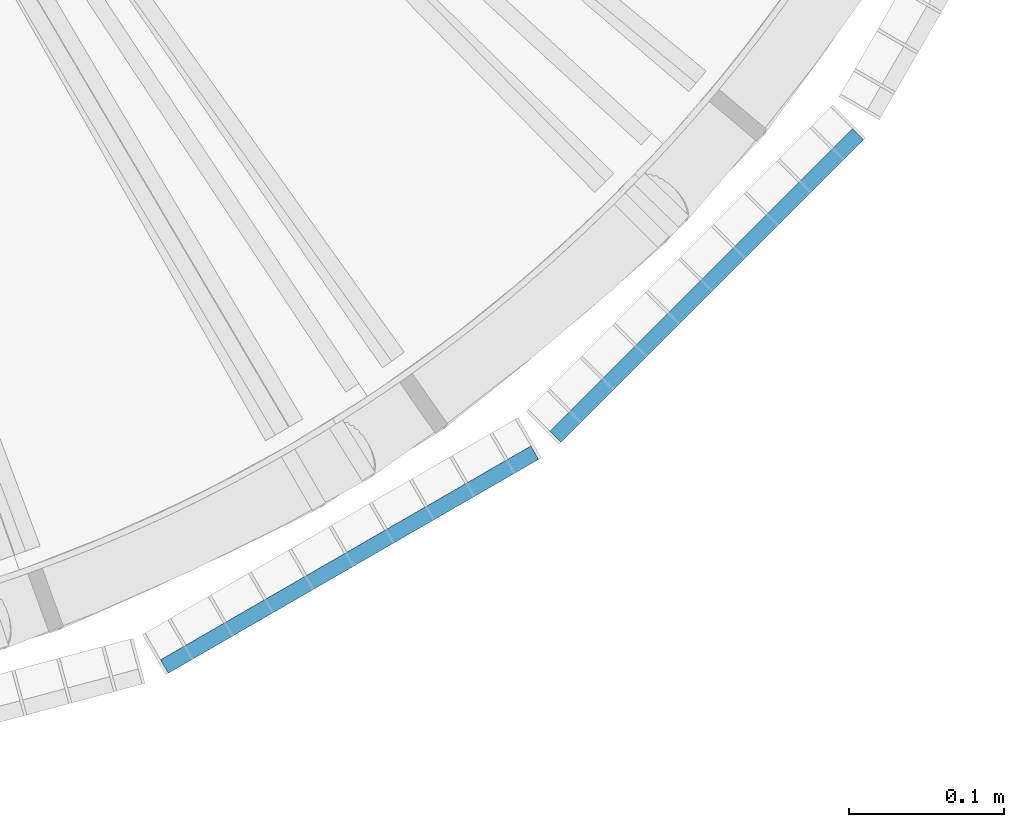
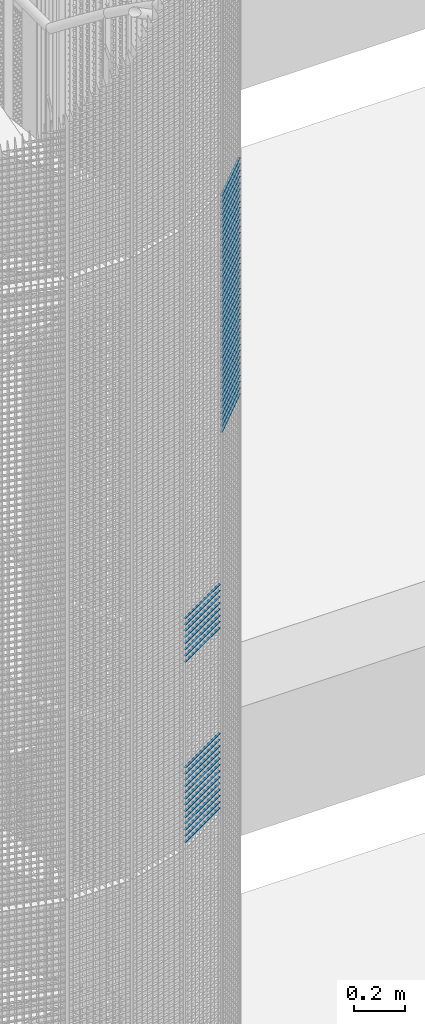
# One storey, part 386 of 1148: 60 beams, 2 elements without a shape of their own.
"""IFC2X3 building model written with IfcOpenShell, lengths in millimetres."""

from ifc_helpers import new_model, si_unit, frame, origin_with_axes, origin_2d_with_axis, place, context, subcontext, project, spatial, rectangle, extrude, material, type_object, element, aggregate, save


model = new_model("IFC2X3")

# Units and contexts
model_context = context("Model", 3, precision=1e-05, world=origin_with_axes())
body_context = subcontext(model_context, "Body", "Model", "MODEL_VIEW")
ifc_project = project(units=[si_unit("LENGTHUNIT", "METRE", prefix="MILLI"), si_unit("AREAUNIT", "SQUARE_METRE"), si_unit("VOLUMEUNIT", "CUBIC_METRE"), si_unit("MASSUNIT", "GRAM", prefix="KILO"), si_unit("TIMEUNIT", "SECOND"), si_unit("PLANEANGLEUNIT", "RADIAN"), si_unit("SOLIDANGLEUNIT", "STERADIAN"), si_unit("THERMODYNAMICTEMPERATUREUNIT", "DEGREE_CELSIUS"), si_unit("LUMINOUSINTENSITYUNIT", "LUMEN")], contexts=[model_context])

# Site, building, storey
site_placement = place(None, origin_with_axes())
site = spatial("IfcSite", under=ifc_project, at=site_placement, Name="Undefined", CompositionType="ELEMENT")
building_placement = place(site_placement, origin_with_axes())
building = spatial("IfcBuilding", under=site, at=building_placement, Name="Undefined", CompositionType="ELEMENT")
storey_placement = place(building_placement, origin_with_axes())
storey = spatial("IfcBuildingStorey", under=building, at=storey_placement, Name="Undefined", CompositionType="ELEMENT", Elevation=0.0)

# Assembly, beams
assembly_1_placement = place(storey_placement, origin_with_axes())
assembly_1 = element("IfcElementAssembly", 1, at=assembly_1_placement, inside=storey, Name="BORDURE", AssemblyPlace="NOTDEFINED", PredefinedType="NOTDEFINED")
ifc_material = material(Name="STEEL/S235JR")
beam_type = type_object("IfcBeamType", Name="PL2*10", PredefinedType="NOTDEFINED")
beam_1_placement = place(assembly_1_placement, frame((22276.2480445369, -895.303964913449, 12900.0), z_axis=(0.499999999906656, -0.866025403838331, 0.0), x_axis=(-0.866025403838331, -0.499999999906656, 0.0)))
beam_1 = element("IfcBeam", 2, at=beam_1_placement, type_object=beam_type, material=ifc_material, Name="ENTRETOISE", context=body_context, shape_type="SweptSolid", body=[
    extrude(rectangle(XDim=2.0, YDim=10.0, at=origin_2d_with_axis()), frame((275.999999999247, 9.09494701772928e-13, 1.53210777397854e-14), z_axis=(-1.0, 0.0, 0.0), x_axis=(0.0, -1.0, 0.0)), (0.0, 0.0, 1.0), 276.0),
])
beam_2_placement = place(assembly_1_placement, frame((22276.2480445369, -895.30396491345, 12390.0), z_axis=(0.499999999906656, -0.866025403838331, 0.0), x_axis=(-0.866025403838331, -0.499999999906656, 0.0)))
beam_2 = element("IfcBeam", 3, at=beam_2_placement, type_object=beam_type, material=ifc_material, Name="ENTRETOISE", context=body_context, shape_type="SweptSolid", body=[
    extrude(rectangle(XDim=2.0, YDim=10.0, at=origin_2d_with_axis()), frame((275.999999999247, 9.09494701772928e-13, 1.53210777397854e-14), z_axis=(-1.0, 0.0, 0.0), x_axis=(0.0, -1.0, 0.0)), (0.0, 0.0, 1.0), 276.0),
])
beam_3_placement = place(assembly_1_placement, frame((22276.2480445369, -895.303964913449, 12930.0), z_axis=(0.499999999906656, -0.866025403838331, 0.0), x_axis=(-0.866025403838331, -0.499999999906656, 0.0)))
beam_3 = element("IfcBeam", 4, at=beam_3_placement, type_object=beam_type, material=ifc_material, Name="ENTRETOISE", context=body_context, shape_type="SweptSolid", body=[
    extrude(rectangle(XDim=2.0, YDim=10.0, at=origin_2d_with_axis()), frame((275.999999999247, 9.09494701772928e-13, 1.53210777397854e-14), z_axis=(-1.0, 0.0, 0.0), x_axis=(0.0, -1.0, 0.0)), (0.0, 0.0, 1.0), 276.0),
])
beam_4_placement = place(assembly_1_placement, frame((22276.2480445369, -895.30396491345, 12360.0), z_axis=(0.499999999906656, -0.866025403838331, 0.0), x_axis=(-0.866025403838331, -0.499999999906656, 0.0)))
beam_4 = element("IfcBeam", 5, at=beam_4_placement, type_object=beam_type, material=ifc_material, Name="ENTRETOISE", context=body_context, shape_type="SweptSolid", body=[
    extrude(rectangle(XDim=2.0, YDim=10.0, at=origin_2d_with_axis()), frame((275.999999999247, 9.09494701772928e-13, 1.53210777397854e-14), z_axis=(-1.0, 0.0, 0.0), x_axis=(0.0, -1.0, 0.0)), (0.0, 0.0, 1.0), 276.0),
])
beam_5_placement = place(assembly_1_placement, frame((22276.2480445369, -895.30396491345, 12330.0), z_axis=(0.499999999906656, -0.866025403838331, 0.0), x_axis=(-0.866025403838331, -0.499999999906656, 0.0)))
beam_5 = element("IfcBeam", 6, at=beam_5_placement, type_object=beam_type, material=ifc_material, Name="ENTRETOISE", context=body_context, shape_type="SweptSolid", body=[
    extrude(rectangle(XDim=2.0, YDim=10.0, at=origin_2d_with_axis()), frame((275.999999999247, 9.09494701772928e-13, 1.53210777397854e-14), z_axis=(-1.0, 0.0, 0.0), x_axis=(0.0, -1.0, 0.0)), (0.0, 0.0, 1.0), 276.0),
])
beam_6_placement = place(assembly_1_placement, frame((22276.2480445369, -895.303964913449, 12960.0), z_axis=(0.499999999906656, -0.866025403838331, 0.0), x_axis=(-0.866025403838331, -0.499999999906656, 0.0)))
beam_6 = element("IfcBeam", 7, at=beam_6_placement, type_object=beam_type, material=ifc_material, Name="ENTRETOISE", context=body_context, shape_type="SweptSolid", body=[
    extrude(rectangle(XDim=2.0, YDim=10.0, at=origin_2d_with_axis()), frame((275.999999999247, 9.09494701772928e-13, 1.53210777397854e-14), z_axis=(-1.0, 0.0, 0.0), x_axis=(0.0, -1.0, 0.0)), (0.0, 0.0, 1.0), 276.0),
])
beam_7_placement = place(assembly_1_placement, frame((22276.2480445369, -895.30396491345, 12300.0), z_axis=(0.499999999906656, -0.866025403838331, 0.0), x_axis=(-0.866025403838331, -0.499999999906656, 0.0)))
beam_7 = element("IfcBeam", 8, at=beam_7_placement, type_object=beam_type, material=ifc_material, Name="ENTRETOISE", context=body_context, shape_type="SweptSolid", body=[
    extrude(rectangle(XDim=2.0, YDim=10.0, at=origin_2d_with_axis()), frame((275.999999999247, 9.09494701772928e-13, 1.53210777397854e-14), z_axis=(-1.0, 0.0, 0.0), x_axis=(0.0, -1.0, 0.0)), (0.0, 0.0, 1.0), 276.0),
])
beam_8_placement = place(assembly_1_placement, frame((22276.2480445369, -895.30396491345, 12270.0), z_axis=(0.499999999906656, -0.866025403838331, 0.0), x_axis=(-0.866025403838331, -0.499999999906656, 0.0)))
beam_8 = element("IfcBeam", 9, at=beam_8_placement, type_object=beam_type, material=ifc_material, Name="ENTRETOISE", context=body_context, shape_type="SweptSolid", body=[
    extrude(rectangle(XDim=2.0, YDim=10.0, at=origin_2d_with_axis()), frame((275.999999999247, 9.09494701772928e-13, 1.53210777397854e-14), z_axis=(-1.0, 0.0, 0.0), x_axis=(0.0, -1.0, 0.0)), (0.0, 0.0, 1.0), 276.0),
])
beam_9_placement = place(assembly_1_placement, frame((22276.2480445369, -895.303964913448, 12990.0), z_axis=(0.499999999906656, -0.866025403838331, 0.0), x_axis=(-0.866025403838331, -0.499999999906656, 0.0)))
beam_9 = element("IfcBeam", 10, at=beam_9_placement, type_object=beam_type, material=ifc_material, Name="ENTRETOISE", context=body_context, shape_type="SweptSolid", body=[
    extrude(rectangle(XDim=2.0, YDim=10.0, at=origin_2d_with_axis()), frame((275.999999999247, 9.09494701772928e-13, 1.53210777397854e-14), z_axis=(-1.0, 0.0, 0.0), x_axis=(0.0, -1.0, 0.0)), (0.0, 0.0, 1.0), 276.0),
])
beam_10_placement = place(assembly_1_placement, frame((22276.2480445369, -895.30396491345, 12240.0), z_axis=(0.499999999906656, -0.866025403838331, 0.0), x_axis=(-0.866025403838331, -0.499999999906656, 0.0)))
beam_10 = element("IfcBeam", 11, at=beam_10_placement, type_object=beam_type, material=ifc_material, Name="ENTRETOISE", context=body_context, shape_type="SweptSolid", body=[
    extrude(rectangle(XDim=2.0, YDim=10.0, at=origin_2d_with_axis()), frame((275.999999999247, 9.09494701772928e-13, 1.53210777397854e-14), z_axis=(-1.0, 0.0, 0.0), x_axis=(0.0, -1.0, 0.0)), (0.0, 0.0, 1.0), 276.0),
])
beam_11_placement = place(assembly_1_placement, frame((22276.2480445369, -895.303964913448, 13020.0), z_axis=(0.499999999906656, -0.866025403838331, 0.0), x_axis=(-0.866025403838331, -0.499999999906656, 0.0)))
beam_11 = element("IfcBeam", 12, at=beam_11_placement, type_object=beam_type, material=ifc_material, Name="ENTRETOISE", context=body_context, shape_type="SweptSolid", body=[
    extrude(rectangle(XDim=2.0, YDim=10.0, at=origin_2d_with_axis()), frame((275.999999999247, 9.09494701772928e-13, 1.53210777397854e-14), z_axis=(-1.0, 0.0, 0.0), x_axis=(0.0, -1.0, 0.0)), (0.0, 0.0, 1.0), 276.0),
])
beam_12_placement = place(assembly_1_placement, frame((22276.2480445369, -895.30396491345, 12210.0), z_axis=(0.499999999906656, -0.866025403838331, 0.0), x_axis=(-0.866025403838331, -0.499999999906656, 0.0)))
beam_12 = element("IfcBeam", 13, at=beam_12_placement, type_object=beam_type, material=ifc_material, Name="ENTRETOISE", context=body_context, shape_type="SweptSolid", body=[
    extrude(rectangle(XDim=2.0, YDim=10.0, at=origin_2d_with_axis()), frame((275.999999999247, 9.09494701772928e-13, 1.53210777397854e-14), z_axis=(-1.0, 0.0, 0.0), x_axis=(0.0, -1.0, 0.0)), (0.0, 0.0, 1.0), 276.0),
])
beam_13_placement = place(assembly_1_placement, frame((22276.2480445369, -895.30396491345, 12180.0), z_axis=(0.499999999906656, -0.866025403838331, 0.0), x_axis=(-0.866025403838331, -0.499999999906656, 0.0)))
beam_13 = element("IfcBeam", 14, at=beam_13_placement, type_object=beam_type, material=ifc_material, Name="ENTRETOISE", context=body_context, shape_type="SweptSolid", body=[
    extrude(rectangle(XDim=2.0, YDim=10.0, at=origin_2d_with_axis()), frame((275.999999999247, 9.09494701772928e-13, 1.53210777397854e-14), z_axis=(-1.0, 0.0, 0.0), x_axis=(0.0, -1.0, 0.0)), (0.0, 0.0, 1.0), 276.0),
])
beam_14_placement = place(assembly_1_placement, frame((22276.2480445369, -895.303964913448, 13050.0), z_axis=(0.499999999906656, -0.866025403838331, 0.0), x_axis=(-0.866025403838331, -0.499999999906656, 0.0)))
beam_14 = element("IfcBeam", 15, at=beam_14_placement, type_object=beam_type, material=ifc_material, Name="ENTRETOISE", context=body_context, shape_type="SweptSolid", body=[
    extrude(rectangle(XDim=2.0, YDim=10.0, at=origin_2d_with_axis()), frame((275.999999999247, 9.09494701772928e-13, 1.53210777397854e-14), z_axis=(-1.0, 0.0, 0.0), x_axis=(0.0, -1.0, 0.0)), (0.0, 0.0, 1.0), 276.0),
])
beam_15_placement = place(assembly_1_placement, frame((22276.2480445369, -895.30396491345, 12150.0), z_axis=(0.499999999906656, -0.866025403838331, 0.0), x_axis=(-0.866025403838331, -0.499999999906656, 0.0)))
beam_15 = element("IfcBeam", 16, at=beam_15_placement, type_object=beam_type, material=ifc_material, Name="ENTRETOISE", context=body_context, shape_type="SweptSolid", body=[
    extrude(rectangle(XDim=2.0, YDim=10.0, at=origin_2d_with_axis()), frame((275.999999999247, 9.09494701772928e-13, 1.53210777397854e-14), z_axis=(-1.0, 0.0, 0.0), x_axis=(0.0, -1.0, 0.0)), (0.0, 0.0, 1.0), 276.0),
])
beam_16_placement = place(assembly_1_placement, frame((22276.2480445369, -895.30396491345, 12120.0), z_axis=(0.499999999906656, -0.866025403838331, 0.0), x_axis=(-0.866025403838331, -0.499999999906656, 0.0)))
beam_16 = element("IfcBeam", 17, at=beam_16_placement, type_object=beam_type, material=ifc_material, Name="ENTRETOISE", context=body_context, shape_type="SweptSolid", body=[
    extrude(rectangle(XDim=2.0, YDim=10.0, at=origin_2d_with_axis()), frame((275.999999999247, 9.09494701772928e-13, 1.53210777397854e-14), z_axis=(-1.0, 0.0, 0.0), x_axis=(0.0, -1.0, 0.0)), (0.0, 0.0, 1.0), 276.0),
])
beam_17_placement = place(assembly_1_placement, frame((22276.2480445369, -895.303964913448, 13080.0), z_axis=(0.499999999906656, -0.866025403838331, 0.0), x_axis=(-0.866025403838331, -0.499999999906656, 0.0)))
beam_17 = element("IfcBeam", 18, at=beam_17_placement, type_object=beam_type, material=ifc_material, Name="ENTRETOISE", context=body_context, shape_type="SweptSolid", body=[
    extrude(rectangle(XDim=2.0, YDim=10.0, at=origin_2d_with_axis()), frame((275.999999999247, 9.09494701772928e-13, 1.53210777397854e-14), z_axis=(-1.0, 0.0, 0.0), x_axis=(0.0, -1.0, 0.0)), (0.0, 0.0, 1.0), 276.0),
])
beam_18_placement = place(assembly_1_placement, frame((22276.2480445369, -895.30396491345, 12090.0), z_axis=(0.499999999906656, -0.866025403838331, 0.0), x_axis=(-0.866025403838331, -0.499999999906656, 0.0)))
beam_18 = element("IfcBeam", 19, at=beam_18_placement, type_object=beam_type, material=ifc_material, Name="ENTRETOISE", context=body_context, shape_type="SweptSolid", body=[
    extrude(rectangle(XDim=2.0, YDim=10.0, at=origin_2d_with_axis()), frame((275.999999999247, 9.09494701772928e-13, 1.53210777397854e-14), z_axis=(-1.0, 0.0, 0.0), x_axis=(0.0, -1.0, 0.0)), (0.0, 0.0, 1.0), 276.0),
])
beam_19_placement = place(assembly_1_placement, frame((22276.2480445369, -895.30396491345, 12060.0), z_axis=(0.499999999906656, -0.866025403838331, 0.0), x_axis=(-0.866025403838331, -0.499999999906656, 0.0)))
beam_19 = element("IfcBeam", 20, at=beam_19_placement, type_object=beam_type, material=ifc_material, Name="ENTRETOISE", context=body_context, shape_type="SweptSolid", body=[
    extrude(rectangle(XDim=2.0, YDim=10.0, at=origin_2d_with_axis()), frame((275.999999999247, 9.09494701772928e-13, 1.53210777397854e-14), z_axis=(-1.0, 0.0, 0.0), x_axis=(0.0, -1.0, 0.0)), (0.0, 0.0, 1.0), 276.0),
])
beam_20_placement = place(assembly_1_placement, frame((22276.2480445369, -895.303964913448, 13110.0), z_axis=(0.499999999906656, -0.866025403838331, 0.0), x_axis=(-0.866025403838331, -0.499999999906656, 0.0)))
beam_20 = element("IfcBeam", 21, at=beam_20_placement, type_object=beam_type, material=ifc_material, Name="ENTRETOISE", context=body_context, shape_type="SweptSolid", body=[
    extrude(rectangle(XDim=2.0, YDim=10.0, at=origin_2d_with_axis()), frame((275.999999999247, 9.09494701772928e-13, 1.53210777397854e-14), z_axis=(-1.0, 0.0, 0.0), x_axis=(0.0, -1.0, 0.0)), (0.0, 0.0, 1.0), 276.0),
])
beam_21_placement = place(assembly_1_placement, frame((22276.2480445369, -895.30396491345, 12030.0), z_axis=(0.499999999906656, -0.866025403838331, 0.0), x_axis=(-0.866025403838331, -0.499999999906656, 0.0)))
beam_21 = element("IfcBeam", 22, at=beam_21_placement, type_object=beam_type, material=ifc_material, Name="ENTRETOISE", context=body_context, shape_type="SweptSolid", body=[
    extrude(rectangle(XDim=2.0, YDim=10.0, at=origin_2d_with_axis()), frame((275.999999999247, 9.09494701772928e-13, 1.53210777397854e-14), z_axis=(-1.0, 0.0, 0.0), x_axis=(0.0, -1.0, 0.0)), (0.0, 0.0, 1.0), 276.0),
])
aggregate(assembly_1, [beam_1, beam_2, beam_3, beam_4, beam_5, beam_6, beam_7, beam_8, beam_9, beam_10, beam_11, beam_12, beam_13, beam_14, beam_15, beam_16, beam_17, beam_18, beam_19, beam_20, beam_21])

assembly_2_placement = place(storey_placement, origin_with_axes())
assembly_2 = element("IfcElementAssembly", 23, at=assembly_2_placement, inside=storey, Name="BORDURE", AssemblyPlace="NOTDEFINED", PredefinedType="NOTDEFINED")
beam_22_placement = place(assembly_2_placement, frame((22484.9271684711, -689.771348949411, 14970.0), z_axis=(0.707106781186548, -0.707106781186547, 0.0), x_axis=(-0.70710678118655, -0.707106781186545, 0.0)))
beam_22 = element("IfcBeam", 24, at=beam_22_placement, type_object=beam_type, material=ifc_material, Name="ENTRETOISE", context=body_context, shape_type="SweptSolid", body=[
    extrude(rectangle(XDim=2.0, YDim=10.0, at=origin_2d_with_axis()), frame((275.999999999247, 9.09494701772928e-13, 1.53210777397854e-14), z_axis=(-1.0, 0.0, 0.0), x_axis=(0.0, -1.0, 0.0)), (0.0, 0.0, 1.0), 276.0),
])
beam_23_placement = place(assembly_2_placement, frame((22484.9271684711, -689.771348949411, 14940.0), z_axis=(0.707106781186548, -0.707106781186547, 0.0), x_axis=(-0.70710678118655, -0.707106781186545, 0.0)))
beam_23 = element("IfcBeam", 25, at=beam_23_placement, type_object=beam_type, material=ifc_material, Name="ENTRETOISE", context=body_context, shape_type="SweptSolid", body=[
    extrude(rectangle(XDim=2.0, YDim=10.0, at=origin_2d_with_axis()), frame((275.999999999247, 9.09494701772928e-13, 1.53210777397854e-14), z_axis=(-1.0, 0.0, 0.0), x_axis=(0.0, -1.0, 0.0)), (0.0, 0.0, 1.0), 276.0),
])
beam_24_placement = place(assembly_2_placement, frame((22484.9271684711, -689.771348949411, 14910.0), z_axis=(0.707106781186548, -0.707106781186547, 0.0), x_axis=(-0.70710678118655, -0.707106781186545, 0.0)))
beam_24 = element("IfcBeam", 26, at=beam_24_placement, type_object=beam_type, material=ifc_material, Name="ENTRETOISE", context=body_context, shape_type="SweptSolid", body=[
    extrude(rectangle(XDim=2.0, YDim=10.0, at=origin_2d_with_axis()), frame((275.999999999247, 9.09494701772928e-13, 1.53210777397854e-14), z_axis=(-1.0, 0.0, 0.0), x_axis=(0.0, -1.0, 0.0)), (0.0, 0.0, 1.0), 276.0),
])
beam_25_placement = place(assembly_2_placement, frame((22484.9271684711, -689.771348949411, 14880.0), z_axis=(0.707106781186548, -0.707106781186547, 0.0), x_axis=(-0.70710678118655, -0.707106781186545, 0.0)))
beam_25 = element("IfcBeam", 27, at=beam_25_placement, type_object=beam_type, material=ifc_material, Name="ENTRETOISE", context=body_context, shape_type="SweptSolid", body=[
    extrude(rectangle(XDim=2.0, YDim=10.0, at=origin_2d_with_axis()), frame((275.999999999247, 9.09494701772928e-13, 1.53210777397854e-14), z_axis=(-1.0, 0.0, 0.0), x_axis=(0.0, -1.0, 0.0)), (0.0, 0.0, 1.0), 276.0),
])
beam_26_placement = place(assembly_2_placement, frame((22484.9271684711, -689.771348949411, 14850.0), z_axis=(0.707106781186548, -0.707106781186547, 0.0), x_axis=(-0.70710678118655, -0.707106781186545, 0.0)))
beam_26 = element("IfcBeam", 28, at=beam_26_placement, type_object=beam_type, material=ifc_material, Name="ENTRETOISE", context=body_context, shape_type="SweptSolid", body=[
    extrude(rectangle(XDim=2.0, YDim=10.0, at=origin_2d_with_axis()), frame((275.999999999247, 9.09494701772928e-13, 1.53210777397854e-14), z_axis=(-1.0, 0.0, 0.0), x_axis=(0.0, -1.0, 0.0)), (0.0, 0.0, 1.0), 276.0),
])
beam_27_placement = place(assembly_2_placement, frame((22484.9271684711, -689.771348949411, 14820.0), z_axis=(0.707106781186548, -0.707106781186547, 0.0), x_axis=(-0.70710678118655, -0.707106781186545, 0.0)))
beam_27 = element("IfcBeam", 29, at=beam_27_placement, type_object=beam_type, material=ifc_material, Name="ENTRETOISE", context=body_context, shape_type="SweptSolid", body=[
    extrude(rectangle(XDim=2.0, YDim=10.0, at=origin_2d_with_axis()), frame((275.999999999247, 9.09494701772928e-13, 1.53210777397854e-14), z_axis=(-1.0, 0.0, 0.0), x_axis=(0.0, -1.0, 0.0)), (0.0, 0.0, 1.0), 276.0),
])
beam_28_placement = place(assembly_2_placement, frame((22484.9271684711, -689.771348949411, 14790.0), z_axis=(0.707106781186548, -0.707106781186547, 0.0), x_axis=(-0.70710678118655, -0.707106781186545, 0.0)))
beam_28 = element("IfcBeam", 30, at=beam_28_placement, type_object=beam_type, material=ifc_material, Name="ENTRETOISE", context=body_context, shape_type="SweptSolid", body=[
    extrude(rectangle(XDim=2.0, YDim=10.0, at=origin_2d_with_axis()), frame((275.999999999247, 9.09494701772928e-13, 1.53210777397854e-14), z_axis=(-1.0, 0.0, 0.0), x_axis=(0.0, -1.0, 0.0)), (0.0, 0.0, 1.0), 276.0),
])
beam_29_placement = place(assembly_2_placement, frame((22484.9271684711, -689.771348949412, 14760.0), z_axis=(0.707106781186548, -0.707106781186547, 0.0), x_axis=(-0.70710678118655, -0.707106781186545, 0.0)))
beam_29 = element("IfcBeam", 31, at=beam_29_placement, type_object=beam_type, material=ifc_material, Name="ENTRETOISE", context=body_context, shape_type="SweptSolid", body=[
    extrude(rectangle(XDim=2.0, YDim=10.0, at=origin_2d_with_axis()), frame((275.999999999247, 9.09494701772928e-13, 1.53210777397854e-14), z_axis=(-1.0, 0.0, 0.0), x_axis=(0.0, -1.0, 0.0)), (0.0, 0.0, 1.0), 276.0),
])
beam_30_placement = place(assembly_2_placement, frame((22484.9271684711, -689.771348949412, 14730.0), z_axis=(0.707106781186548, -0.707106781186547, 0.0), x_axis=(-0.70710678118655, -0.707106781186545, 0.0)))
beam_30 = element("IfcBeam", 32, at=beam_30_placement, type_object=beam_type, material=ifc_material, Name="ENTRETOISE", context=body_context, shape_type="SweptSolid", body=[
    extrude(rectangle(XDim=2.0, YDim=10.0, at=origin_2d_with_axis()), frame((275.999999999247, 9.09494701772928e-13, 1.53210777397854e-14), z_axis=(-1.0, 0.0, 0.0), x_axis=(0.0, -1.0, 0.0)), (0.0, 0.0, 1.0), 276.0),
])
beam_31_placement = place(assembly_2_placement, frame((22484.9271684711, -689.771348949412, 14700.0), z_axis=(0.707106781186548, -0.707106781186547, 0.0), x_axis=(-0.70710678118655, -0.707106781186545, 0.0)))
beam_31 = element("IfcBeam", 33, at=beam_31_placement, type_object=beam_type, material=ifc_material, Name="ENTRETOISE", context=body_context, shape_type="SweptSolid", body=[
    extrude(rectangle(XDim=2.0, YDim=10.0, at=origin_2d_with_axis()), frame((275.999999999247, 9.09494701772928e-13, 1.53210777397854e-14), z_axis=(-1.0, 0.0, 0.0), x_axis=(0.0, -1.0, 0.0)), (0.0, 0.0, 1.0), 276.0),
])
beam_32_placement = place(assembly_2_placement, frame((22484.9271684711, -689.771348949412, 14670.0), z_axis=(0.707106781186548, -0.707106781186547, 0.0), x_axis=(-0.70710678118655, -0.707106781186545, 0.0)))
beam_32 = element("IfcBeam", 34, at=beam_32_placement, type_object=beam_type, material=ifc_material, Name="ENTRETOISE", context=body_context, shape_type="SweptSolid", body=[
    extrude(rectangle(XDim=2.0, YDim=10.0, at=origin_2d_with_axis()), frame((275.999999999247, 9.09494701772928e-13, 1.53210777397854e-14), z_axis=(-1.0, 0.0, 0.0), x_axis=(0.0, -1.0, 0.0)), (0.0, 0.0, 1.0), 276.0),
])
beam_33_placement = place(assembly_2_placement, frame((22484.9271684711, -689.771348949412, 14640.0), z_axis=(0.707106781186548, -0.707106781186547, 0.0), x_axis=(-0.70710678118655, -0.707106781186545, 0.0)))
beam_33 = element("IfcBeam", 35, at=beam_33_placement, type_object=beam_type, material=ifc_material, Name="ENTRETOISE", context=body_context, shape_type="SweptSolid", body=[
    extrude(rectangle(XDim=2.0, YDim=10.0, at=origin_2d_with_axis()), frame((275.999999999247, 9.09494701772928e-13, 1.53210777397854e-14), z_axis=(-1.0, 0.0, 0.0), x_axis=(0.0, -1.0, 0.0)), (0.0, 0.0, 1.0), 276.0),
])
beam_34_placement = place(assembly_2_placement, frame((22484.9271684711, -689.771348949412, 14610.0), z_axis=(0.707106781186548, -0.707106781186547, 0.0), x_axis=(-0.70710678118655, -0.707106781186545, 0.0)))
beam_34 = element("IfcBeam", 36, at=beam_34_placement, type_object=beam_type, material=ifc_material, Name="ENTRETOISE", context=body_context, shape_type="SweptSolid", body=[
    extrude(rectangle(XDim=2.0, YDim=10.0, at=origin_2d_with_axis()), frame((275.999999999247, 9.09494701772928e-13, 1.53210777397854e-14), z_axis=(-1.0, 0.0, 0.0), x_axis=(0.0, -1.0, 0.0)), (0.0, 0.0, 1.0), 276.0),
])
beam_35_placement = place(assembly_2_placement, frame((22484.9271684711, -689.771348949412, 14580.0), z_axis=(0.707106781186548, -0.707106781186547, 0.0), x_axis=(-0.70710678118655, -0.707106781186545, 0.0)))
beam_35 = element("IfcBeam", 37, at=beam_35_placement, type_object=beam_type, material=ifc_material, Name="ENTRETOISE", context=body_context, shape_type="SweptSolid", body=[
    extrude(rectangle(XDim=2.0, YDim=10.0, at=origin_2d_with_axis()), frame((275.999999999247, 9.09494701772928e-13, 1.53210777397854e-14), z_axis=(-1.0, 0.0, 0.0), x_axis=(0.0, -1.0, 0.0)), (0.0, 0.0, 1.0), 276.0),
])
beam_36_placement = place(assembly_2_placement, frame((22484.9271684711, -689.771348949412, 14550.0), z_axis=(0.707106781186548, -0.707106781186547, 0.0), x_axis=(-0.70710678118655, -0.707106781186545, 0.0)))
beam_36 = element("IfcBeam", 38, at=beam_36_placement, type_object=beam_type, material=ifc_material, Name="ENTRETOISE", context=body_context, shape_type="SweptSolid", body=[
    extrude(rectangle(XDim=2.0, YDim=10.0, at=origin_2d_with_axis()), frame((275.999999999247, 9.09494701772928e-13, 1.53210777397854e-14), z_axis=(-1.0, 0.0, 0.0), x_axis=(0.0, -1.0, 0.0)), (0.0, 0.0, 1.0), 276.0),
])
beam_37_placement = place(assembly_2_placement, frame((22484.9271684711, -689.771348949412, 14520.0), z_axis=(0.707106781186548, -0.707106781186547, 0.0), x_axis=(-0.70710678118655, -0.707106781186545, 0.0)))
beam_37 = element("IfcBeam", 39, at=beam_37_placement, type_object=beam_type, material=ifc_material, Name="ENTRETOISE", context=body_context, shape_type="SweptSolid", body=[
    extrude(rectangle(XDim=2.0, YDim=10.0, at=origin_2d_with_axis()), frame((275.999999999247, 9.09494701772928e-13, 1.53210777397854e-14), z_axis=(-1.0, 0.0, 0.0), x_axis=(0.0, -1.0, 0.0)), (0.0, 0.0, 1.0), 276.0),
])
beam_38_placement = place(assembly_2_placement, frame((22484.9271684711, -689.771348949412, 14490.0), z_axis=(0.707106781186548, -0.707106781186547, 0.0), x_axis=(-0.70710678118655, -0.707106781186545, 0.0)))
beam_38 = element("IfcBeam", 40, at=beam_38_placement, type_object=beam_type, material=ifc_material, Name="ENTRETOISE", context=body_context, shape_type="SweptSolid", body=[
    extrude(rectangle(XDim=2.0, YDim=10.0, at=origin_2d_with_axis()), frame((275.999999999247, 9.09494701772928e-13, 1.53210777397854e-14), z_axis=(-1.0, 0.0, 0.0), x_axis=(0.0, -1.0, 0.0)), (0.0, 0.0, 1.0), 276.0),
])
beam_39_placement = place(assembly_2_placement, frame((22484.9271684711, -689.771348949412, 14460.0), z_axis=(0.707106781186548, -0.707106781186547, 0.0), x_axis=(-0.70710678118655, -0.707106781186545, 0.0)))
beam_39 = element("IfcBeam", 41, at=beam_39_placement, type_object=beam_type, material=ifc_material, Name="ENTRETOISE", context=body_context, shape_type="SweptSolid", body=[
    extrude(rectangle(XDim=2.0, YDim=10.0, at=origin_2d_with_axis()), frame((275.999999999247, 9.09494701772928e-13, 1.53210777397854e-14), z_axis=(-1.0, 0.0, 0.0), x_axis=(0.0, -1.0, 0.0)), (0.0, 0.0, 1.0), 276.0),
])
beam_40_placement = place(assembly_2_placement, frame((22484.9271684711, -689.771348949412, 14430.0), z_axis=(0.707106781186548, -0.707106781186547, 0.0), x_axis=(-0.70710678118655, -0.707106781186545, 0.0)))
beam_40 = element("IfcBeam", 42, at=beam_40_placement, type_object=beam_type, material=ifc_material, Name="ENTRETOISE", context=body_context, shape_type="SweptSolid", body=[
    extrude(rectangle(XDim=2.0, YDim=10.0, at=origin_2d_with_axis()), frame((275.999999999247, 9.09494701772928e-13, 1.53210777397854e-14), z_axis=(-1.0, 0.0, 0.0), x_axis=(0.0, -1.0, 0.0)), (0.0, 0.0, 1.0), 276.0),
])
beam_41_placement = place(assembly_2_placement, frame((22484.9271684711, -689.771348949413, 14400.0), z_axis=(0.707106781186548, -0.707106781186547, 0.0), x_axis=(-0.70710678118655, -0.707106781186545, 0.0)))
beam_41 = element("IfcBeam", 43, at=beam_41_placement, type_object=beam_type, material=ifc_material, Name="ENTRETOISE", context=body_context, shape_type="SweptSolid", body=[
    extrude(rectangle(XDim=2.0, YDim=10.0, at=origin_2d_with_axis()), frame((275.999999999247, 9.09494701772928e-13, 1.53210777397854e-14), z_axis=(-1.0, 0.0, 0.0), x_axis=(0.0, -1.0, 0.0)), (0.0, 0.0, 1.0), 276.0),
])
beam_42_placement = place(assembly_2_placement, frame((22484.9271684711, -689.771348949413, 14370.0), z_axis=(0.707106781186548, -0.707106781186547, 0.0), x_axis=(-0.70710678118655, -0.707106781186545, 0.0)))
beam_42 = element("IfcBeam", 44, at=beam_42_placement, type_object=beam_type, material=ifc_material, Name="ENTRETOISE", context=body_context, shape_type="SweptSolid", body=[
    extrude(rectangle(XDim=2.0, YDim=10.0, at=origin_2d_with_axis()), frame((275.999999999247, 9.09494701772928e-13, 1.53210777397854e-14), z_axis=(-1.0, 0.0, 0.0), x_axis=(0.0, -1.0, 0.0)), (0.0, 0.0, 1.0), 276.0),
])
beam_43_placement = place(assembly_2_placement, frame((22484.9271684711, -689.771348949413, 14340.0), z_axis=(0.707106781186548, -0.707106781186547, 0.0), x_axis=(-0.70710678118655, -0.707106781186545, 0.0)))
beam_43 = element("IfcBeam", 45, at=beam_43_placement, type_object=beam_type, material=ifc_material, Name="ENTRETOISE", context=body_context, shape_type="SweptSolid", body=[
    extrude(rectangle(XDim=2.0, YDim=10.0, at=origin_2d_with_axis()), frame((275.999999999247, 9.09494701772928e-13, 1.53210777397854e-14), z_axis=(-1.0, 0.0, 0.0), x_axis=(0.0, -1.0, 0.0)), (0.0, 0.0, 1.0), 276.0),
])
beam_44_placement = place(assembly_2_placement, frame((22484.9271684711, -689.771348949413, 14310.0), z_axis=(0.707106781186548, -0.707106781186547, 0.0), x_axis=(-0.70710678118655, -0.707106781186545, 0.0)))
beam_44 = element("IfcBeam", 46, at=beam_44_placement, type_object=beam_type, material=ifc_material, Name="ENTRETOISE", context=body_context, shape_type="SweptSolid", body=[
    extrude(rectangle(XDim=2.0, YDim=10.0, at=origin_2d_with_axis()), frame((275.999999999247, 9.09494701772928e-13, 1.53210777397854e-14), z_axis=(-1.0, 0.0, 0.0), x_axis=(0.0, -1.0, 0.0)), (0.0, 0.0, 1.0), 276.0),
])
beam_45_placement = place(assembly_2_placement, frame((22484.9271684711, -689.771348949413, 14280.0), z_axis=(0.707106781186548, -0.707106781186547, 0.0), x_axis=(-0.70710678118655, -0.707106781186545, 0.0)))
beam_45 = element("IfcBeam", 47, at=beam_45_placement, type_object=beam_type, material=ifc_material, Name="ENTRETOISE", context=body_context, shape_type="SweptSolid", body=[
    extrude(rectangle(XDim=2.0, YDim=10.0, at=origin_2d_with_axis()), frame((275.999999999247, 9.09494701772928e-13, 1.53210777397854e-14), z_axis=(-1.0, 0.0, 0.0), x_axis=(0.0, -1.0, 0.0)), (0.0, 0.0, 1.0), 276.0),
])
beam_46_placement = place(assembly_2_placement, frame((22484.9271684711, -689.771348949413, 14250.0), z_axis=(0.707106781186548, -0.707106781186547, 0.0), x_axis=(-0.70710678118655, -0.707106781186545, 0.0)))
beam_46 = element("IfcBeam", 48, at=beam_46_placement, type_object=beam_type, material=ifc_material, Name="ENTRETOISE", context=body_context, shape_type="SweptSolid", body=[
    extrude(rectangle(XDim=2.0, YDim=10.0, at=origin_2d_with_axis()), frame((275.999999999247, 9.09494701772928e-13, 1.53210777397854e-14), z_axis=(-1.0, 0.0, 0.0), x_axis=(0.0, -1.0, 0.0)), (0.0, 0.0, 1.0), 276.0),
])
beam_47_placement = place(assembly_2_placement, frame((22484.9271684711, -689.771348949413, 14220.0), z_axis=(0.707106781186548, -0.707106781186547, 0.0), x_axis=(-0.70710678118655, -0.707106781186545, 0.0)))
beam_47 = element("IfcBeam", 49, at=beam_47_placement, type_object=beam_type, material=ifc_material, Name="ENTRETOISE", context=body_context, shape_type="SweptSolid", body=[
    extrude(rectangle(XDim=2.0, YDim=10.0, at=origin_2d_with_axis()), frame((275.999999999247, 9.09494701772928e-13, 1.53210777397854e-14), z_axis=(-1.0, 0.0, 0.0), x_axis=(0.0, -1.0, 0.0)), (0.0, 0.0, 1.0), 276.0),
])
beam_48_placement = place(assembly_2_placement, frame((22484.9271684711, -689.771348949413, 14190.0), z_axis=(0.707106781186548, -0.707106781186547, 0.0), x_axis=(-0.70710678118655, -0.707106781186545, 0.0)))
beam_48 = element("IfcBeam", 50, at=beam_48_placement, type_object=beam_type, material=ifc_material, Name="ENTRETOISE", context=body_context, shape_type="SweptSolid", body=[
    extrude(rectangle(XDim=2.0, YDim=10.0, at=origin_2d_with_axis()), frame((275.999999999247, 9.09494701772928e-13, 1.53210777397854e-14), z_axis=(-1.0, 0.0, 0.0), x_axis=(0.0, -1.0, 0.0)), (0.0, 0.0, 1.0), 276.0),
])
beam_49_placement = place(assembly_2_placement, frame((22484.9271684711, -689.771348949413, 14160.0), z_axis=(0.707106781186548, -0.707106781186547, 0.0), x_axis=(-0.70710678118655, -0.707106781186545, 0.0)))
beam_49 = element("IfcBeam", 51, at=beam_49_placement, type_object=beam_type, material=ifc_material, Name="ENTRETOISE", context=body_context, shape_type="SweptSolid", body=[
    extrude(rectangle(XDim=2.0, YDim=10.0, at=origin_2d_with_axis()), frame((275.999999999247, 9.09494701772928e-13, 1.53210777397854e-14), z_axis=(-1.0, 0.0, 0.0), x_axis=(0.0, -1.0, 0.0)), (0.0, 0.0, 1.0), 276.0),
])
beam_50_placement = place(assembly_2_placement, frame((22484.9271684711, -689.771348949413, 14130.0), z_axis=(0.707106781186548, -0.707106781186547, 0.0), x_axis=(-0.70710678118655, -0.707106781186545, 0.0)))
beam_50 = element("IfcBeam", 52, at=beam_50_placement, type_object=beam_type, material=ifc_material, Name="ENTRETOISE", context=body_context, shape_type="SweptSolid", body=[
    extrude(rectangle(XDim=2.0, YDim=10.0, at=origin_2d_with_axis()), frame((275.999999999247, 9.09494701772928e-13, 1.53210777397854e-14), z_axis=(-1.0, 0.0, 0.0), x_axis=(0.0, -1.0, 0.0)), (0.0, 0.0, 1.0), 276.0),
])
beam_51_placement = place(assembly_2_placement, frame((22484.9271684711, -689.771348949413, 14100.0), z_axis=(0.707106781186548, -0.707106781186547, 0.0), x_axis=(-0.70710678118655, -0.707106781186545, 0.0)))
beam_51 = element("IfcBeam", 53, at=beam_51_placement, type_object=beam_type, material=ifc_material, Name="ENTRETOISE", context=body_context, shape_type="SweptSolid", body=[
    extrude(rectangle(XDim=2.0, YDim=10.0, at=origin_2d_with_axis()), frame((275.999999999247, 9.09494701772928e-13, 1.53210777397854e-14), z_axis=(-1.0, 0.0, 0.0), x_axis=(0.0, -1.0, 0.0)), (0.0, 0.0, 1.0), 276.0),
])
beam_52_placement = place(assembly_2_placement, frame((22484.9271684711, -689.771348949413, 14070.0), z_axis=(0.707106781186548, -0.707106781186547, 0.0), x_axis=(-0.70710678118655, -0.707106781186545, 0.0)))
beam_52 = element("IfcBeam", 54, at=beam_52_placement, type_object=beam_type, material=ifc_material, Name="ENTRETOISE", context=body_context, shape_type="SweptSolid", body=[
    extrude(rectangle(XDim=2.0, YDim=10.0, at=origin_2d_with_axis()), frame((275.999999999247, 9.09494701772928e-13, 1.53210777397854e-14), z_axis=(-1.0, 0.0, 0.0), x_axis=(0.0, -1.0, 0.0)), (0.0, 0.0, 1.0), 276.0),
])
beam_53_placement = place(assembly_2_placement, frame((22484.9271684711, -689.771348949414, 14040.0), z_axis=(0.707106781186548, -0.707106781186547, 0.0), x_axis=(-0.70710678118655, -0.707106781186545, 0.0)))
beam_53 = element("IfcBeam", 55, at=beam_53_placement, type_object=beam_type, material=ifc_material, Name="ENTRETOISE", context=body_context, shape_type="SweptSolid", body=[
    extrude(rectangle(XDim=2.0, YDim=10.0, at=origin_2d_with_axis()), frame((275.999999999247, 9.09494701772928e-13, 1.53210777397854e-14), z_axis=(-1.0, 0.0, 0.0), x_axis=(0.0, -1.0, 0.0)), (0.0, 0.0, 1.0), 276.0),
])
beam_54_placement = place(assembly_2_placement, frame((22484.9271684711, -689.771348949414, 14010.0), z_axis=(0.707106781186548, -0.707106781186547, 0.0), x_axis=(-0.70710678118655, -0.707106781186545, 0.0)))
beam_54 = element("IfcBeam", 56, at=beam_54_placement, type_object=beam_type, material=ifc_material, Name="ENTRETOISE", context=body_context, shape_type="SweptSolid", body=[
    extrude(rectangle(XDim=2.0, YDim=10.0, at=origin_2d_with_axis()), frame((275.999999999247, 9.09494701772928e-13, 1.53210777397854e-14), z_axis=(-1.0, 0.0, 0.0), x_axis=(0.0, -1.0, 0.0)), (0.0, 0.0, 1.0), 276.0),
])
beam_55_placement = place(assembly_2_placement, frame((22484.9271684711, -689.771348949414, 13980.0), z_axis=(0.707106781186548, -0.707106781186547, 0.0), x_axis=(-0.70710678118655, -0.707106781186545, 0.0)))
beam_55 = element("IfcBeam", 57, at=beam_55_placement, type_object=beam_type, material=ifc_material, Name="ENTRETOISE", context=body_context, shape_type="SweptSolid", body=[
    extrude(rectangle(XDim=2.0, YDim=10.0, at=origin_2d_with_axis()), frame((275.999999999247, 9.09494701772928e-13, 1.53210777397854e-14), z_axis=(-1.0, 0.0, 0.0), x_axis=(0.0, -1.0, 0.0)), (0.0, 0.0, 1.0), 276.0),
])
beam_56_placement = place(assembly_2_placement, frame((22484.9271684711, -689.771348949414, 13950.0), z_axis=(0.707106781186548, -0.707106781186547, 0.0), x_axis=(-0.70710678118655, -0.707106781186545, 0.0)))
beam_56 = element("IfcBeam", 58, at=beam_56_placement, type_object=beam_type, material=ifc_material, Name="ENTRETOISE", context=body_context, shape_type="SweptSolid", body=[
    extrude(rectangle(XDim=2.0, YDim=10.0, at=origin_2d_with_axis()), frame((275.999999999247, 9.09494701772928e-13, 1.53210777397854e-14), z_axis=(-1.0, 0.0, 0.0), x_axis=(0.0, -1.0, 0.0)), (0.0, 0.0, 1.0), 276.0),
])
beam_57_placement = place(assembly_2_placement, frame((22484.9271684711, -689.771348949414, 13920.0), z_axis=(0.707106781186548, -0.707106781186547, 0.0), x_axis=(-0.70710678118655, -0.707106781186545, 0.0)))
beam_57 = element("IfcBeam", 59, at=beam_57_placement, type_object=beam_type, material=ifc_material, Name="ENTRETOISE", context=body_context, shape_type="SweptSolid", body=[
    extrude(rectangle(XDim=2.0, YDim=10.0, at=origin_2d_with_axis()), frame((275.999999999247, 9.09494701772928e-13, 1.53210777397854e-14), z_axis=(-1.0, 0.0, 0.0), x_axis=(0.0, -1.0, 0.0)), (0.0, 0.0, 1.0), 276.0),
])
beam_58_placement = place(assembly_2_placement, frame((22484.9271684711, -689.771348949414, 13890.0), z_axis=(0.707106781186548, -0.707106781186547, 0.0), x_axis=(-0.70710678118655, -0.707106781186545, 0.0)))
beam_58 = element("IfcBeam", 60, at=beam_58_placement, type_object=beam_type, material=ifc_material, Name="ENTRETOISE", context=body_context, shape_type="SweptSolid", body=[
    extrude(rectangle(XDim=2.0, YDim=10.0, at=origin_2d_with_axis()), frame((275.999999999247, 9.09494701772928e-13, 1.53210777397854e-14), z_axis=(-1.0, 0.0, 0.0), x_axis=(0.0, -1.0, 0.0)), (0.0, 0.0, 1.0), 276.0),
])
beam_59_placement = place(assembly_2_placement, frame((22484.9271684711, -689.771348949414, 13860.0), z_axis=(0.707106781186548, -0.707106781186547, 0.0), x_axis=(-0.70710678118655, -0.707106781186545, 0.0)))
beam_59 = element("IfcBeam", 61, at=beam_59_placement, type_object=beam_type, material=ifc_material, Name="ENTRETOISE", context=body_context, shape_type="SweptSolid", body=[
    extrude(rectangle(XDim=2.0, YDim=10.0, at=origin_2d_with_axis()), frame((275.999999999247, 9.09494701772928e-13, 1.53210777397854e-14), z_axis=(-1.0, 0.0, 0.0), x_axis=(0.0, -1.0, 0.0)), (0.0, 0.0, 1.0), 276.0),
])
beam_60_placement = place(assembly_2_placement, frame((22484.9271684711, -689.771348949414, 13830.0), z_axis=(0.707106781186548, -0.707106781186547, 0.0), x_axis=(-0.70710678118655, -0.707106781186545, 0.0)))
beam_60 = element("IfcBeam", 62, at=beam_60_placement, type_object=beam_type, material=ifc_material, Name="ENTRETOISE", context=body_context, shape_type="SweptSolid", body=[
    extrude(rectangle(XDim=2.0, YDim=10.0, at=origin_2d_with_axis()), frame((275.999999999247, 9.09494701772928e-13, 1.53210777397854e-14), z_axis=(-1.0, 0.0, 0.0), x_axis=(0.0, -1.0, 0.0)), (0.0, 0.0, 1.0), 276.0),
])
aggregate(assembly_2, [beam_22, beam_23, beam_24, beam_25, beam_26, beam_27, beam_28, beam_29, beam_30, beam_31, beam_32, beam_33, beam_34, beam_35, beam_36, beam_37, beam_38, beam_39, beam_40, beam_41, beam_42, beam_43, beam_44, beam_45, beam_46, beam_47, beam_48, beam_49, beam_50, beam_51, beam_52, beam_53, beam_54, beam_55, beam_56, beam_57, beam_58, beam_59, beam_60])

save(model, "model.ifc")
